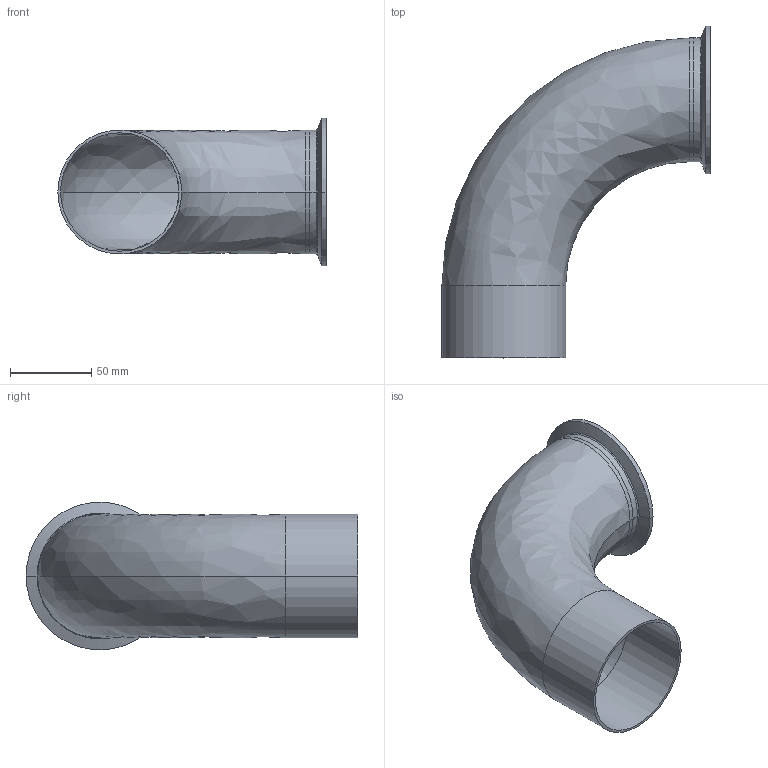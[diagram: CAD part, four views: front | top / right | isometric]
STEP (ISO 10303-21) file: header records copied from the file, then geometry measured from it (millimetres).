
FILE_DESCRIPTION (( 'STEP AP214' ), '1' );
FILE_NAME ('TE2C6L3.0-...STEP', '2016-05-22T09:36:07', ( 'eran' ), ( '' ), 'SwSTEP 2.0', 'SolidWorks 2016', '' );
FILE_SCHEMA (( 'AUTOMOTIVE_DESIGN' ));
Length unit declared in the file: millimetre
Products named in the file (1): TE2C6L3.0-..
Bounding box: 165.1 x 204.25 x 90.91 mm (x, y, z)
Volume: 99156.5 mm3; surface area: 115982.4 mm2
Topology: 2 solids, 2 shells, 39 faces, 92 edges, 58 vertices
Faces by surface type: bspline 14, cylinder 14, cone 6, plane 5
Entity records: 1928 total; most frequent: CARTESIAN_POINT 984, DIRECTION 204, ORIENTED_EDGE 184, AXIS2_PLACEMENT_3D 92, EDGE_CURVE 92, CIRCLE 66, VERTEX_POINT 58, EDGE_LOOP 44
